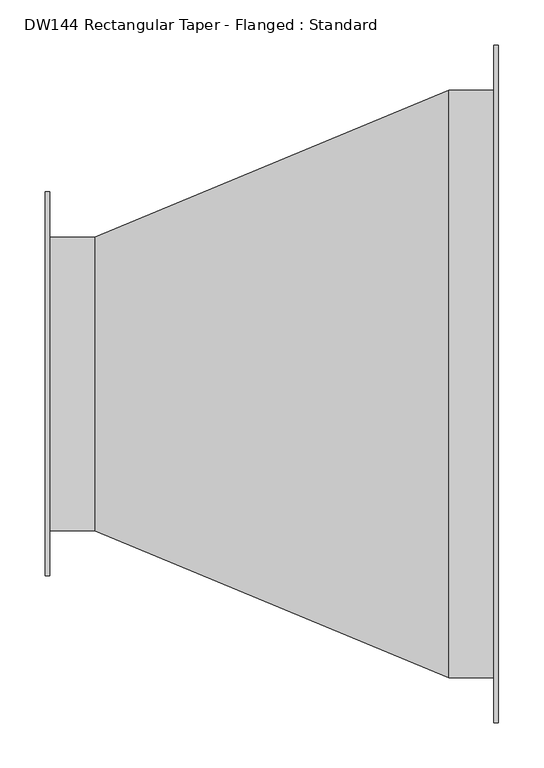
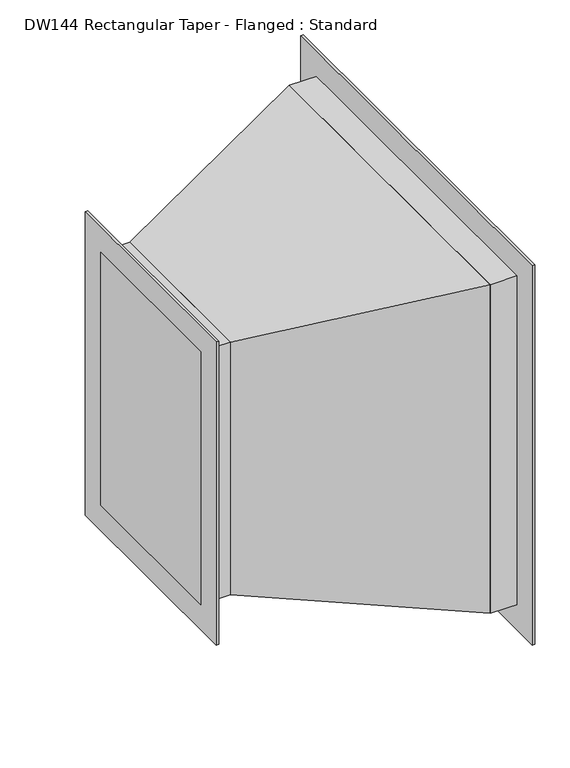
"""IFC4 building model written with IfcOpenShell, lengths in millimetres: duct fitting geometry, DW144 Rectangular Taper - Flanged : Standard."""

from ifc_helpers import new_model, si_unit, frame, origin, place, context, project, spatial, polyline, outline, extrude, faceted_brep, source, transform, mapped, element, save


def dw144_rectangular_taper_flanged_standard_d94a413d(model_context):
    return source(origin(), model_context, "Body", "SolidModel", [
        extrude(outline(polyline([(502.3097039, 325.0), (502.3097039, -325.0), (447.3097039, -325.0), (447.3097039, 325.0), (502.3097039, 325.0)])), frame((0.0, 0.0, -325.0), z_axis=(0.0, 0.0, 1.0), x_axis=(1.0, 0.0, 0.0)), (0.0, 0.0, 1.0), 650.0),
        extrude(outline(polyline([(55.0, 162.5), (55.0, -162.5), (0.0, -162.5), (0.0, 162.5), (55.0, 162.5)])), frame((0.0, 0.0, -250.0), z_axis=(0.0, 0.0, 1.0), x_axis=(1.0, 0.0, 0.0)), (0.0, 0.0, 1.0), 500.0),
        faceted_brep([(447.3097039, -325.0, 325.0), (447.3097039, -325.0, -325.0), (447.3097039, 325.0, -325.0), (447.3097039, 325.0, 325.0), (55.0, -162.5, 250.0), (55.0, 162.5, 250.0), (55.0, 162.5, -250.0), (55.0, -162.5, -250.0)], [[[0, 1, 2, 3]], [[4, 5, 6, 7]], [[4, 7, 1, 0]], [[7, 6, 2, 1]], [[6, 5, 3, 2]], [[5, 4, 0, 3]]]),
        extrude(outline(polyline([(502.3097039, 375.0), (502.3097039, -375.0), (497.3097039, -375.0), (497.3097039, 375.0), (502.3097039, 375.0)])), frame((0.0, 0.0, -375.0), z_axis=(0.0, 0.0, 1.0), x_axis=(1.0, 0.0, 0.0)), (0.0, 0.0, 1.0), 750.0),
        extrude(outline(polyline([(5.0, 212.5), (5.0, -212.5), (0.0, -212.5), (0.0, 212.5), (5.0, 212.5)])), frame((0.0, 0.0, -300.0), z_axis=(0.0, 0.0, 1.0), x_axis=(1.0, 0.0, 0.0)), (0.0, 0.0, 1.0), 600.0),
    ])


if __name__ == "__main__":
    model = new_model("IFC4")
    model_context = context("Model", 3, world=origin())
    ifc_project = project(units=[si_unit("LENGTHUNIT", "METRE", prefix="MILLI")], contexts=[model_context])
    site = spatial("IfcSite", under=ifc_project)
    building = spatial("IfcBuilding", under=site)
    placement = place(None, origin())
    dw144_rectangular_taper_flanged_standard_shape = dw144_rectangular_taper_flanged_standard_d94a413d(model_context)
    element("IfcDuctFitting", 1, ObjectType="DW144 Rectangular Taper - Flanged : Standard", at=placement, inside=building, context=model_context, shape_type="MappedRepresentation", body=[
        mapped(dw144_rectangular_taper_flanged_standard_shape, transform((0.0, 0.0, 0.0), x_axis=(1.0, 0.0, 0.0), y_axis=(0.0, 1.0, 0.0), z_axis=(0.0, 0.0, 1.0))),
    ])
    save(model, "model.ifc")
